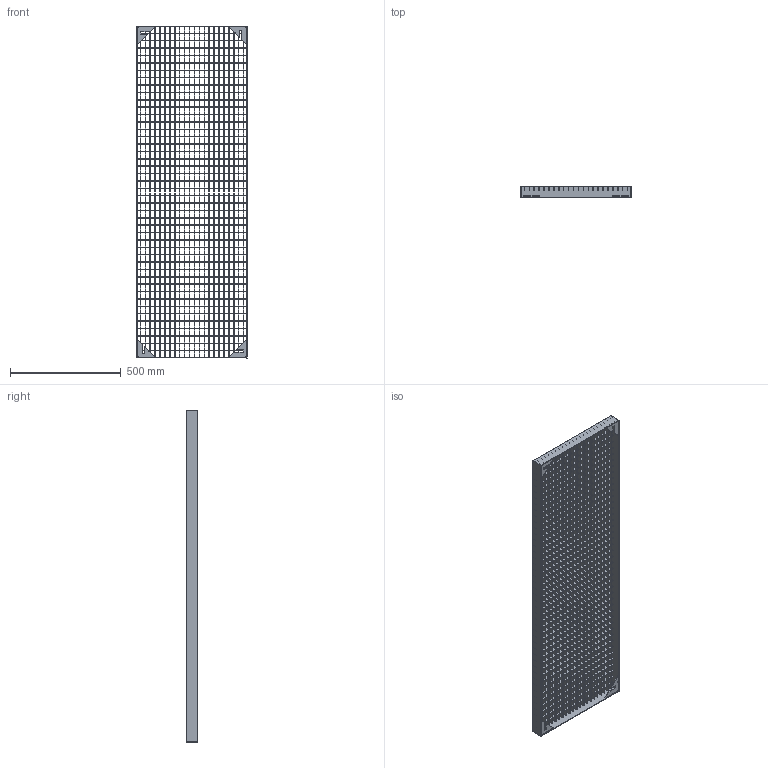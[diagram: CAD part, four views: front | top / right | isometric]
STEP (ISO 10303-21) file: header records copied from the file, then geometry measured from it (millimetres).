
FILE_DESCRIPTION (( 'STEP AP203' ), '1' );
FILE_NAME ('11012515G_Trinrist_500x1500_20x30_20x2_mm_.STEP', '2015-01-02T13:55:02', ( '' ), ( '' ), 'SwSTEP 2.0', 'SolidWorks 2013', '' );
FILE_SCHEMA (( 'CONFIG_CONTROL_DESIGN' ));
Length unit declared in the file: millimetre
Products named in the file (6): 11012515G_Kantstaal_50x3x1500_mm_; 11012515G_Hjoernebeslag_80x80x3_mm_; 11012515G_Trinrist_500x1500_20x30_20x2_mm_; 11012515G_Ribbe_20x2x494_mm_; 11012515G_Tvaerstav_20x2x1494_mm_; 11012515G_Kantstaal_50x3x494_mm_
Assembly tree (74 placements, depth 2):
  11012515G_Trinrist_500x1500_20x30_20x2_mm_
    11012515G_Ribbe_20x2x494_mm_  x44
    11012515G_Tvaerstav_20x2x1494_mm_  x22
    11012515G_Kantstaal_50x3x494_mm_  x2
    11012515G_Kantstaal_50x3x1500_mm_  x2
    11012515G_Hjoernebeslag_80x80x3_mm_  x4
Bounding box: 500 x 50 x 1500 mm (x, y, z)
Volume: 2738944.9 mm3; surface area: 2858574.2 mm2
Topology: 74 solids, 74 shells, 8204 faces, 24168 edges, 16112 vertices
Faces by surface type: plane 8204
Entity records: 12448 total; most frequent: CARTESIAN_POINT 1815, ORIENTED_EDGE 1728, DIRECTION 1614, VECTOR 864, LINE 864, EDGE_CURVE 864, VERTEX_POINT 576, AXIS2_PLACEMENT_3D 375
